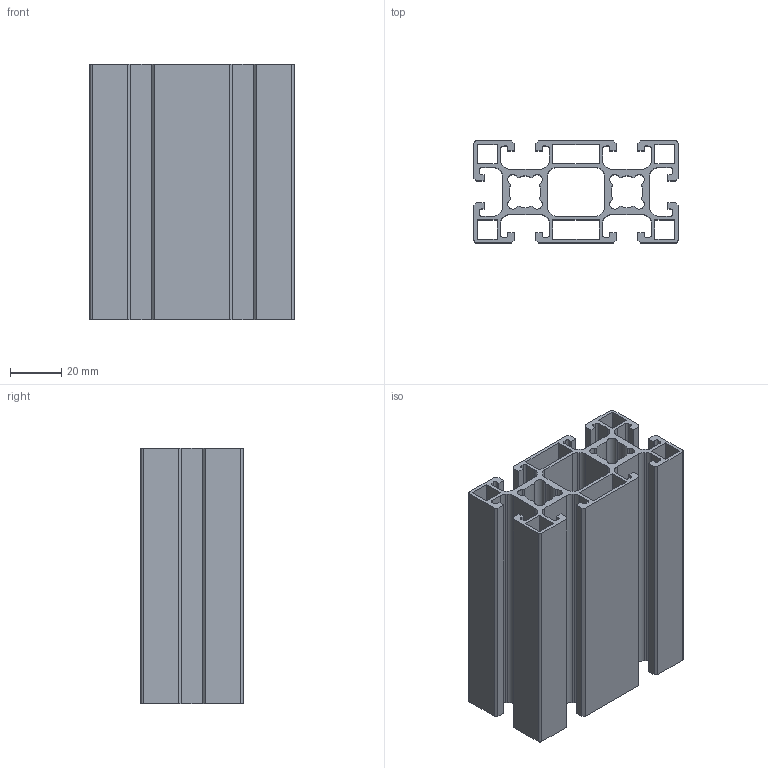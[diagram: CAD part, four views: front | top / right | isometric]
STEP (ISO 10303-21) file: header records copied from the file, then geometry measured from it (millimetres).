
FILE_DESCRIPTION((''),'2;1');
FILE_NAME('C:\Users\de2afr0\Desktop\New folder\MS40+ L 40x80.stp','2014-02-28T13:15:40',('de2afr0'),(''),'Autodesk Inventor 2011','Autodesk Inventor 2011','');
FILE_SCHEMA(('AUTOMOTIVE_DESIGN { 1 0 10303 214 1 1 1 1 }'));
Length unit declared in the file: millimetre
Products named in the file (1): MB01158501
Bounding box: 80 x 40 x 100 mm (x, y, z)
Volume: 87391.8 mm3; surface area: 94401.1 mm2
Topology: 1 solids, 1 shells, 226 faces, 672 edges, 448 vertices
Faces by surface type: plane 150, cylinder 76
Entity records: 7630 total; most frequent: CARTESIAN_POINT 1347, ORIENTED_EDGE 1344, DIRECTION 1278, EDGE_CURVE 672, VECTOR 520, LINE 520, VERTEX_POINT 448, AXIS2_PLACEMENT_3D 379
